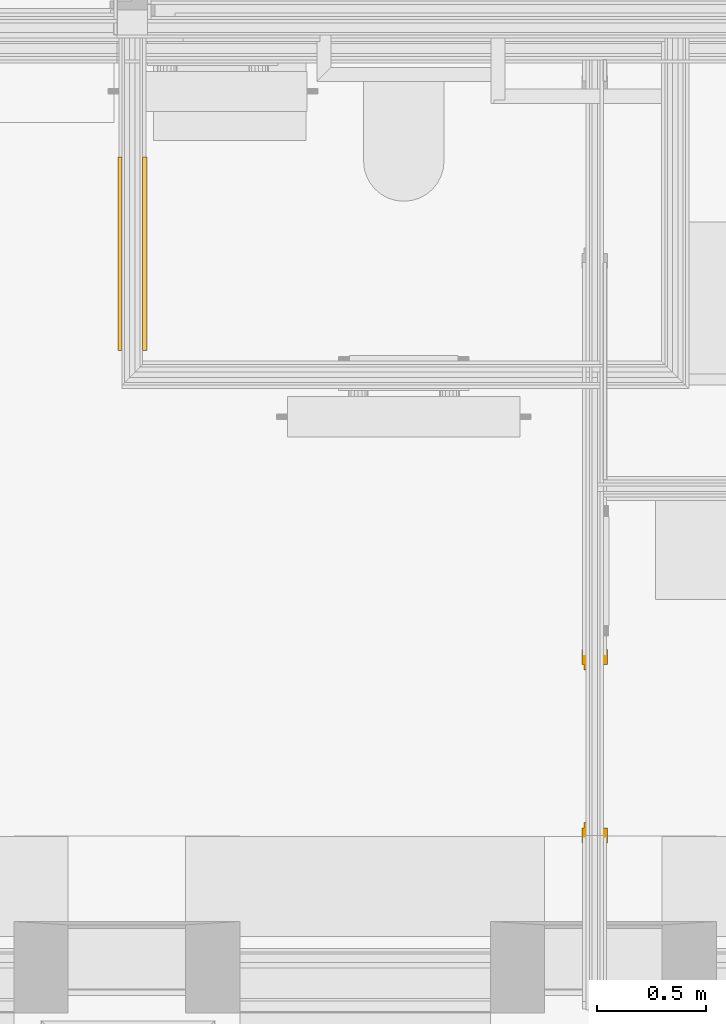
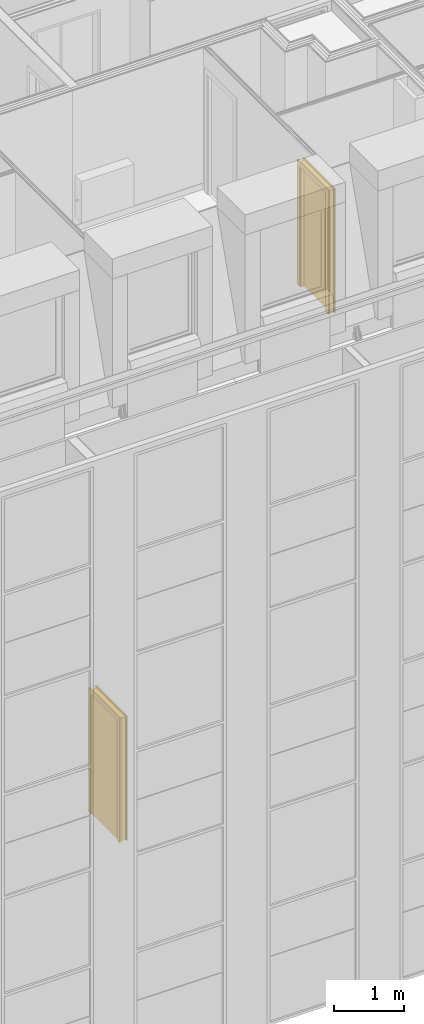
# One storey, part 100 of 169: 2 doors.
"""IFC2X3 building model written with IfcOpenShell, lengths in metres."""

from ifc_helpers import new_model, entity, si_unit, converted_unit, derived_unit, money_unit, direction, frame, origin_with_axes, place, context, subcontext, project, spatial, faceted_brep, material, type_object, element, save


model = new_model("IFC2X3")

# Units and contexts
model_context = context("Model", 3, precision=1e-05, world=origin_with_axes(), true_north=direction((0.0, 1.0)))
body_context = subcontext(model_context, "Body", "Model", "MODEL_VIEW", scale=1.0)
ifc_project = project(units=[si_unit("LENGTHUNIT", "METRE"), si_unit("AREAUNIT", "SQUARE_METRE"), si_unit("VOLUMEUNIT", "CUBIC_METRE"), si_unit("ABSORBEDDOSEUNIT", "GRAY"), si_unit("AMOUNTOFSUBSTANCEUNIT", "MOLE"), si_unit("DOSEEQUIVALENTUNIT", "SIEVERT"), si_unit("ELECTRICCAPACITANCEUNIT", "FARAD"), si_unit("ELECTRICCHARGEUNIT", "COULOMB"), si_unit("ELECTRICCONDUCTANCEUNIT", "SIEMENS"), si_unit("ELECTRICCURRENTUNIT", "AMPERE"), si_unit("ELECTRICRESISTANCEUNIT", "OHM"), si_unit("ELECTRICVOLTAGEUNIT", "VOLT"), si_unit("ENERGYUNIT", "JOULE"), si_unit("FORCEUNIT", "NEWTON"), si_unit("FREQUENCYUNIT", "HERTZ"), si_unit("ILLUMINANCEUNIT", "LUX"), si_unit("INDUCTANCEUNIT", "HENRY"), si_unit("LUMINOUSFLUXUNIT", "LUMEN"), si_unit("LUMINOUSINTENSITYUNIT", "CANDELA"), si_unit("MAGNETICFLUXDENSITYUNIT", "TESLA"), si_unit("MAGNETICFLUXUNIT", "WEBER"), si_unit("MASSUNIT", "GRAM"), converted_unit("PLANEANGLEUNIT", "degree", entity("IfcReal", 0.0174532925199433), si_unit("PLANEANGLEUNIT", "RADIAN"), dimensions=[0, 0, 0, 0, 0, 0, 0]), si_unit("POWERUNIT", "WATT"), si_unit("PRESSUREUNIT", "PASCAL"), si_unit("RADIOACTIVITYUNIT", "BECQUEREL"), si_unit("SOLIDANGLEUNIT", "STERADIAN"), si_unit("THERMODYNAMICTEMPERATUREUNIT", "KELVIN"), si_unit("TIMEUNIT", "SECOND"), derived_unit("ACCELERATIONUNIT", [(si_unit("LENGTHUNIT", "METRE"), 1), (si_unit("TIMEUNIT", "SECOND"), -2)]), derived_unit("ANGULARVELOCITYUNIT", [(converted_unit("PLANEANGLEUNIT", "degree", entity("IfcReal", 0.0174532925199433), si_unit("PLANEANGLEUNIT", "RADIAN"), dimensions=[0, 0, 0, 0, 0, 0, 0]), 1), (si_unit("TIMEUNIT", "SECOND"), -1)]), derived_unit("CURVATUREUNIT", [(converted_unit("PLANEANGLEUNIT", "degree", entity("IfcReal", 0.0174532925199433), si_unit("PLANEANGLEUNIT", "RADIAN"), dimensions=[0, 0, 0, 0, 0, 0, 0]), 1), (si_unit("LENGTHUNIT", "METRE"), -1)]), derived_unit("DYNAMICVISCOSITYUNIT", [(si_unit("PRESSUREUNIT", "PASCAL"), 1), (si_unit("TIMEUNIT", "SECOND"), 1)]), derived_unit("HEATFLUXDENSITYUNIT", [(si_unit("POWERUNIT", "WATT"), 1), (si_unit("LENGTHUNIT", "METRE"), -2)]), derived_unit("HEATINGVALUEUNIT", [(si_unit("ENERGYUNIT", "JOULE"), 1), (si_unit("MASSUNIT", "GRAM"), -1)]), derived_unit("INTEGERCOUNTRATEUNIT", [(si_unit("TIMEUNIT", "SECOND"), -1)]), derived_unit("IONCONCENTRATIONUNIT", [(si_unit("MASSUNIT", "GRAM"), 1), (si_unit("VOLUMEUNIT", "CUBIC_METRE"), -1)]), derived_unit("ISOTHERMALMOISTURECAPACITYUNIT", [(si_unit("VOLUMEUNIT", "CUBIC_METRE"), 1), (si_unit("MASSUNIT", "GRAM"), -1)]), derived_unit("KINEMATICVISCOSITYUNIT", [(si_unit("AREAUNIT", "SQUARE_METRE"), 1), (si_unit("TIMEUNIT", "SECOND"), -1)]), derived_unit("LINEARFORCEUNIT", [(si_unit("FORCEUNIT", "NEWTON"), 1), (si_unit("LENGTHUNIT", "METRE"), -1)]), derived_unit("LINEARMOMENTUNIT", [(si_unit("FORCEUNIT", "NEWTON"), 1), (si_unit("LENGTHUNIT", "METRE"), -1)]), derived_unit("LINEARSTIFFNESSUNIT", [(si_unit("FORCEUNIT", "NEWTON"), 1), (si_unit("LENGTHUNIT", "METRE"), -1)]), derived_unit("LINEARVELOCITYUNIT", [(si_unit("LENGTHUNIT", "METRE"), 1), (si_unit("TIMEUNIT", "SECOND"), -1)]), derived_unit("LUMINOUSINTENSITYDISTRIBUTIONUNIT", [(si_unit("LUMINOUSINTENSITYUNIT", "CANDELA"), 1), (si_unit("LUMINOUSFLUXUNIT", "LUMEN"), -1)]), derived_unit("MASSDENSITYUNIT", [(si_unit("MASSUNIT", "GRAM"), 1), (si_unit("VOLUMEUNIT", "CUBIC_METRE"), -1)]), derived_unit("MASSFLOWRATEUNIT", [(si_unit("MASSUNIT", "GRAM"), 1), (si_unit("TIMEUNIT", "SECOND"), -1)]), derived_unit("MASSPERLENGTHUNIT", [(si_unit("MASSUNIT", "GRAM"), 1), (si_unit("LENGTHUNIT", "METRE"), -1)]), derived_unit("MODULUSOFELASTICITYUNIT", [(si_unit("FORCEUNIT", "NEWTON"), 1), (si_unit("AREAUNIT", "SQUARE_METRE"), -1)]), derived_unit("MODULUSOFLINEARSUBGRADEREACTIONUNIT", [(si_unit("FORCEUNIT", "NEWTON"), 1), (si_unit("LENGTHUNIT", "METRE"), -2)]), derived_unit("MODULUSOFROTATIONALSUBGRADEREACTIONUNIT", [(si_unit("FORCEUNIT", "NEWTON"), 1), (si_unit("LENGTHUNIT", "METRE"), 1)]), derived_unit("MODULUSOFSUBGRADEREACTIONUNIT", [(si_unit("FORCEUNIT", "NEWTON"), 1), (si_unit("VOLUMEUNIT", "CUBIC_METRE"), -1)]), derived_unit("MOISTUREDIFFUSIVITYUNIT", [(si_unit("VOLUMEUNIT", "CUBIC_METRE"), 1), (si_unit("TIMEUNIT", "SECOND"), -1)]), derived_unit("MOLECULARWEIGHTUNIT", [(si_unit("MASSUNIT", "GRAM"), 1), (si_unit("AMOUNTOFSUBSTANCEUNIT", "MOLE"), -1)]), derived_unit("PLANARFORCEUNIT", [(si_unit("FORCEUNIT", "NEWTON"), 1), (si_unit("LENGTHUNIT", "METRE"), -2)]), derived_unit("ROTATIONALFREQUENCYUNIT", [(si_unit("TIMEUNIT", "SECOND"), -1)]), derived_unit("ROTATIONALMASSUNIT", [(si_unit("MASSUNIT", "GRAM"), 1), (si_unit("LENGTHUNIT", "METRE"), 2)]), derived_unit("ROTATIONALSTIFFNESSUNIT", [(si_unit("FORCEUNIT", "NEWTON"), 1), (si_unit("LENGTHUNIT", "METRE"), 1), (converted_unit("PLANEANGLEUNIT", "degree", entity("IfcReal", 0.0174532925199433), si_unit("PLANEANGLEUNIT", "RADIAN"), dimensions=[0, 0, 0, 0, 0, 0, 0]), -1)]), derived_unit("SECTIONAREAINTEGRALUNIT", [(si_unit("LENGTHUNIT", "METRE"), 5)]), derived_unit("SECTIONMODULUSUNIT", [(si_unit("LENGTHUNIT", "METRE"), 3)]), derived_unit("SHEARMODULUSUNIT", [(si_unit("FORCEUNIT", "NEWTON"), 1), (si_unit("AREAUNIT", "SQUARE_METRE"), -1)]), derived_unit("SOUNDPOWERUNIT", [(si_unit("ENERGYUNIT", "JOULE"), 1), (si_unit("TIMEUNIT", "SECOND"), -1)]), derived_unit("SPECIFICHEATCAPACITYUNIT", [(si_unit("FORCEUNIT", "NEWTON"), 1), (si_unit("MASSUNIT", "GRAM"), -1), (si_unit("THERMODYNAMICTEMPERATUREUNIT", "KELVIN"), -1)]), derived_unit("TEMPERATUREGRADIENTUNIT", [(si_unit("THERMODYNAMICTEMPERATUREUNIT", "KELVIN"), 1), (si_unit("LENGTHUNIT", "METRE"), -1)]), derived_unit("THERMALADMITTANCEUNIT", [(si_unit("POWERUNIT", "WATT"), 1), (si_unit("AREAUNIT", "SQUARE_METRE"), -1), (si_unit("THERMODYNAMICTEMPERATUREUNIT", "KELVIN"), -1)]), derived_unit("THERMALCONDUCTANCEUNIT", [(si_unit("POWERUNIT", "WATT"), 1), (si_unit("LENGTHUNIT", "METRE"), -1), (si_unit("THERMODYNAMICTEMPERATUREUNIT", "KELVIN"), -1)]), derived_unit("THERMALEXPANSIONCOEFFICIENTUNIT", [(si_unit("THERMODYNAMICTEMPERATUREUNIT", "KELVIN"), -1)]), derived_unit("THERMALRESISTANCEUNIT", [(si_unit("AREAUNIT", "SQUARE_METRE"), 1), (si_unit("POWERUNIT", "WATT"), -1)]), derived_unit("THERMALTRANSMITTANCEUNIT", [(si_unit("POWERUNIT", "WATT"), 1), (si_unit("AREAUNIT", "SQUARE_METRE"), -1), (si_unit("THERMODYNAMICTEMPERATUREUNIT", "KELVIN"), -1)]), derived_unit("TORQUEUNIT", [(si_unit("FORCEUNIT", "NEWTON"), 1), (si_unit("LENGTHUNIT", "METRE"), 1)]), derived_unit("VAPORPERMEABILITYUNIT", [(si_unit("MASSUNIT", "GRAM"), 1), (si_unit("TIMEUNIT", "SECOND"), -1)]), derived_unit("VOLUMETRICFLOWRATEUNIT", [(si_unit("VOLUMEUNIT", "CUBIC_METRE"), 1), (si_unit("TIMEUNIT", "SECOND"), -1)]), derived_unit("WARPINGCONSTANTUNIT", [(si_unit("LENGTHUNIT", "METRE"), 6)]), derived_unit("WARPINGMOMENTUNIT", [(si_unit("FORCEUNIT", "NEWTON"), 1), (si_unit("LENGTHUNIT", "METRE"), 2)]), money_unit("GBP")], contexts=[model_context])

# Site, building, storey, space
site_placement = place(None, origin_with_axes())
site = spatial("IfcSite", under=ifc_project, at=site_placement, Name="Site", CompositionType="ELEMENT")
building_placement = place(site_placement, origin_with_axes())
building = spatial("IfcBuilding", under=site, at=building_placement, Name="Building01", CompositionType="ELEMENT")
storey_placement = place(building_placement, frame((0.0, 0.0, 5.15), z_axis=(0.0, 0.0, 1.0), x_axis=(1.0, 0.0, 0.0)))
storey = spatial("IfcBuildingStorey", under=building, at=storey_placement, Name="1F", CompositionType="ELEMENT", Elevation=5.15)
space_1_placement = place(storey_placement, frame((12.175, 4.189428, 9.86), z_axis=(0.0, 0.0, 1.0), x_axis=(0.0, 1.0, 0.0)))
space_1 = spatial("IfcSpace", under=storey, at=space_1_placement, Name="25", CompositionType="ELEMENT", InteriorOrExteriorSpace="NOTDEFINED")

# Door
ifc_material = material(Name="A_BSUK_Doors")
door_style_1 = type_object("IfcDoorStyle", Name="A-Doors-SingleFlush", ConstructionType="USERDEFINED", OperationType="SINGLE_SWING_RIGHT", ParameterTakesPrecedence=False, Sizeable=False)
door_1_placement = place(storey_placement, frame((11.31, 2.099939, 9.83), z_axis=(0.0, 0.0, 1.0), x_axis=(0.0, -1.0, 0.0)))
element("IfcDoor", 1, at=door_1_placement, inside=space_1, type_object=door_style_1, material=ifc_material, Name="4.23", ObjectType="A-Doors-SingleFlush", OverallHeight=2.16900000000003, OverallWidth=0.888000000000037, context=body_context, shape_type="Brep", body=[
    faceted_brep([(0.75, -0.099, 0.0), (0.819, -0.099, 0.0), (0.819, -0.099, 2.169), (-0.069, -0.099, 2.169), (-0.069, -0.099, 0.0), (0.0, -0.099, 0.0), (0.0, -0.099, 2.1), (0.75, -0.099, 2.1), (-0.069, -0.08, 0.0), (-0.069, -0.08, 2.169), (0.819, -0.08, 2.169), (0.819, -0.08, 0.0), (0.75, 0.019, 0.0), (0.819, 0.019, 0.0), (0.819, 0.0, 0.0), (0.792, 0.0, 0.0), (0.792, -0.08, 0.0), (0.75, 0.019, 2.1), (0.0, 0.019, 2.1), (0.0, 0.019, 0.0), (-0.069, 0.019, 0.0), (-0.069, 0.019, 2.169), (0.819, 0.019, 2.169), (0.819, 0.0, 2.169), (0.792, -0.08, 2.142), (0.792, 0.0, 2.142), (-0.042, -0.08, 2.142), (-0.042, 0.0, 2.142), (-0.042, -0.08, 0.0), (-0.042, 0.0, 0.0), (-0.069, 0.0, 2.169), (-0.069, 0.0, 0.0)], [[[0, 1, 2, 3, 4, 5, 6, 7]], [[8, 4, 3, 9]], [[10, 2, 1, 11]], [[9, 3, 2, 10]], [[12, 13, 14, 15, 16, 11, 1, 0]], [[7, 17, 12, 0]], [[6, 18, 17, 7]], [[18, 19, 20, 21, 22, 13, 12, 17]], [[5, 19, 18, 6]], [[13, 22, 23, 14]], [[24, 16, 15, 25]], [[26, 24, 25, 27]], [[11, 16, 24, 26, 28, 8, 9, 10]], [[27, 29, 28, 26]], [[25, 15, 14, 23, 30, 31, 29, 27]], [[5, 4, 8, 28, 29, 31, 20, 19]], [[30, 21, 20, 31]], [[23, 22, 21, 30]]]),
    faceted_brep([(0.0, -0.09, 2.1), (0.0, -0.04, 2.1), (0.0, -0.04, 0.0), (0.0, -0.09, 0.0), (0.725, -0.09, 0.0), (0.75, -0.09, 0.0), (0.75, -0.09, 2.1), (0.025, -0.09, 0.0), (0.025, -0.09, 2.075), (0.725, -0.09, 2.075), (0.725, -0.04, 0.0), (0.75, -0.04, 0.0), (0.75, -0.04, 2.1), (0.025, -0.04, 2.075), (0.025, -0.04, 0.0), (0.725, -0.04, 2.075)], [[[0, 1, 2, 3]], [[4, 5, 6, 0, 3, 7, 8, 9]], [[10, 11, 5, 4]], [[6, 12, 1, 0]], [[5, 11, 12, 6]], [[13, 14, 2, 1, 12, 11, 10, 15]], [[7, 14, 13, 8]], [[7, 3, 2, 14]], [[9, 15, 10, 4]], [[8, 13, 15, 9]]]),
    faceted_brep([(0.75, -0.04, 0.0), (0.75, 0.0, 0.0), (0.75, 0.0, 2.1), (0.75, -0.04, 2.1), (0.0, -0.04, 2.1), (0.0, 0.0, 2.1), (0.0, 0.0, 0.0), (0.0, -0.04, 0.0)], [[[0, 1, 2, 3]], [[4, 5, 6, 7]], [[7, 6, 1, 0]], [[3, 4, 7, 0]], [[3, 2, 5, 4]], [[1, 6, 5, 2]]]),
])

# Space
space_2_placement = place(storey_placement, frame((12.15, 4.98, 0.017975), z_axis=(0.0, 0.0, 1.0), x_axis=(-1.0, 0.0, 0.0)))
space_2 = spatial("IfcSpace", under=storey, at=space_2_placement, Name="05", CompositionType="ELEMENT", InteriorOrExteriorSpace="NOTDEFINED")

# Door
door_style_2 = type_object("IfcDoorStyle", Name="A-Doors-SingleFlush", ConstructionType="USERDEFINED", OperationType="SINGLE_SWING_LEFT", ParameterTakesPrecedence=False, Sizeable=False)
door_2_placement = place(storey_placement, frame((9.097536, 3.613781, 0.0), z_axis=(0.0, 0.0, 1.0), x_axis=(0.0, 1.0, 0.0)))
element("IfcDoor", 2, at=door_2_placement, inside=space_2, type_object=door_style_2, material=ifc_material, Name="1.15", ObjectType="A-Doors-SingleFlush", OverallHeight=2.16900000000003, OverallWidth=0.888000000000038, context=body_context, shape_type="Brep", body=[
    faceted_brep([(0.0, -0.114, 2.1), (0.75, -0.114, 2.1), (0.75, -0.114, 0.0), (0.819, -0.114, 0.0), (0.819, -0.114, 2.169), (-0.069, -0.114, 2.169), (-0.069, -0.114, 0.0), (0.0, -0.114, 0.0), (0.819, -0.095, 2.169), (0.819, -0.095, 0.0), (-0.069, -0.095, 0.0), (-0.069, -0.095, 2.169), (-0.042, -0.095, 0.0), (-0.042, 0.0, 0.0), (-0.069, 0.0, 0.0), (-0.069, 0.019, 0.0), (0.0, 0.019, 0.0), (0.0, 0.019, 2.1), (0.75, 0.019, 2.1), (-0.069, 0.019, 2.169), (0.819, 0.019, 2.169), (0.819, 0.019, 0.0), (0.75, 0.019, 0.0), (-0.069, 0.0, 2.169), (-0.042, 0.0, 2.142), (-0.042, -0.095, 2.142), (0.792, 0.0, 2.142), (0.792, -0.095, 2.142), (0.792, -0.095, 0.0), (0.792, 0.0, 0.0), (0.819, 0.0, 0.0), (0.819, 0.0, 2.169)], [[[0, 1, 2, 3, 4, 5, 6, 7]], [[8, 4, 3, 9]], [[10, 6, 5, 11]], [[11, 5, 4, 8]], [[7, 6, 10, 12, 13, 14, 15, 16]], [[7, 16, 17, 0]], [[0, 17, 18, 1]], [[17, 16, 15, 19, 20, 21, 22, 18]], [[1, 18, 22, 2]], [[14, 23, 19, 15]], [[24, 13, 12, 25]], [[26, 24, 25, 27]], [[11, 8, 9, 28, 27, 25, 12, 10]], [[27, 28, 29, 26]], [[26, 29, 30, 31, 23, 14, 13, 24]], [[22, 21, 30, 29, 28, 9, 3, 2]], [[30, 21, 20, 31]], [[31, 20, 19, 23]]]),
    faceted_brep([(0.75, -0.09, 0.0), (0.75, -0.04, 0.0), (0.75, -0.04, 2.1), (0.75, -0.09, 2.1), (0.025, -0.09, 2.075), (0.725, -0.09, 2.075), (0.725, -0.09, 0.0), (0.0, -0.09, 2.1), (0.0, -0.09, 0.0), (0.025, -0.09, 0.0), (0.0, -0.04, 0.0), (0.025, -0.04, 0.0), (0.0, -0.04, 2.1), (0.025, -0.04, 2.075), (0.725, -0.04, 0.0), (0.725, -0.04, 2.075)], [[[0, 1, 2, 3]], [[4, 5, 6, 0, 3, 7, 8, 9]], [[9, 8, 10, 11]], [[3, 2, 12, 7]], [[7, 12, 10, 8]], [[13, 11, 10, 12, 2, 1, 14, 15]], [[5, 15, 14, 6]], [[14, 1, 0, 6]], [[9, 11, 13, 4]], [[4, 13, 15, 5]]]),
    faceted_brep([(0.0, -0.04, 2.1), (0.0, 0.0, 2.1), (0.0, 0.0, 0.0), (0.0, -0.04, 0.0), (0.75, -0.04, 0.0), (0.75, 0.0, 0.0), (0.75, 0.0, 2.1), (0.75, -0.04, 2.1)], [[[0, 1, 2, 3]], [[4, 5, 6, 7]], [[3, 2, 5, 4]], [[3, 4, 7, 0]], [[7, 6, 1, 0]], [[1, 6, 5, 2]]]),
])

save(model, "model.ifc")
